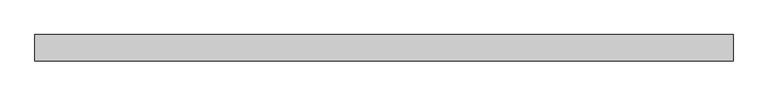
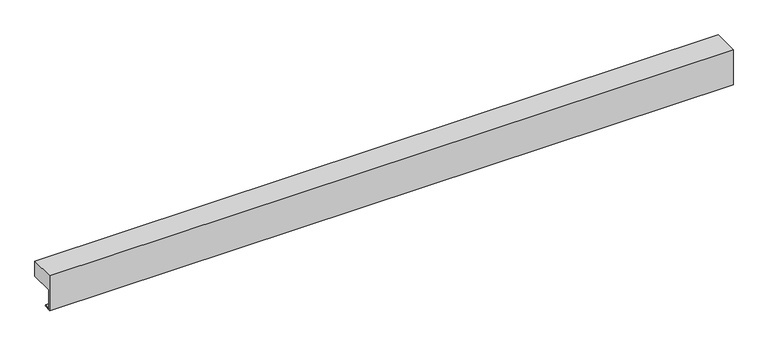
"""IFC4 building model written with IfcOpenShell, lengths in millimetres: proxy geometry, H-QTRGE-60."""

from ifc_helpers import new_model, si_unit, frame, origin, place, context, project, spatial, polyline, outline, extrude, source, transform, mapped, element, save


def generic_models_4ba38070(model_context):
    return source(origin(), model_context, "Body", "SweptSolid", [
        extrude(outline(polyline([(57.15, -34.925), (3.175, -34.925), (3.175, -78.9251419), (16.0836488, -77.2096393), (16.501915, -80.356968), (0.0, -82.55), (0.0, 0.0), (57.15, 0.0), (57.15, -34.925)])), frame((0.0, 0.0, 0.0), z_axis=(1.0, 0.0, 0.0), x_axis=(0.0, 1.0, 0.0)), (0.0, 0.0, 1.0), 1524.0),
    ])


if __name__ == "__main__":
    model = new_model("IFC4")
    model_context = context("Model", 3, world=origin())
    ifc_project = project(units=[si_unit("LENGTHUNIT", "METRE", prefix="MILLI")], contexts=[model_context])
    site = spatial("IfcSite", under=ifc_project)
    building = spatial("IfcBuilding", under=site)
    placement = place(None, origin())
    generic_models_shape = generic_models_4ba38070(model_context)
    element("IfcBuildingElementProxy", 1, Name="H-QTRGE-60", ObjectType="H-QTRGE-60", at=placement, inside=building, context=model_context, shape_type="MappedRepresentation", body=[
        mapped(generic_models_shape, transform((0.0, 0.0, 0.0), x_axis=(1.0, 0.0, 0.0), y_axis=(0.0, 1.0, 0.0), z_axis=(0.0, 0.0, 1.0))),
    ])
    save(model, "model.ifc")
